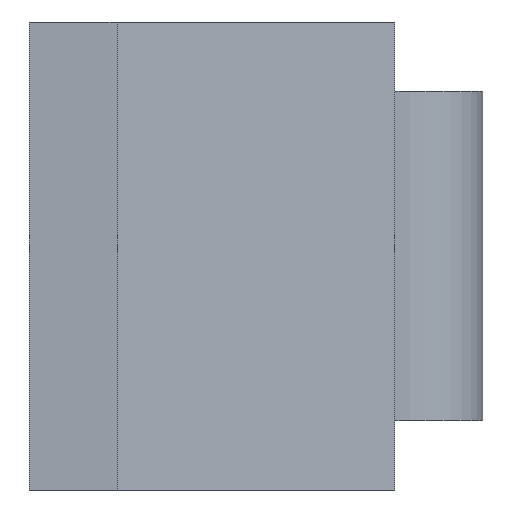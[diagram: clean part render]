
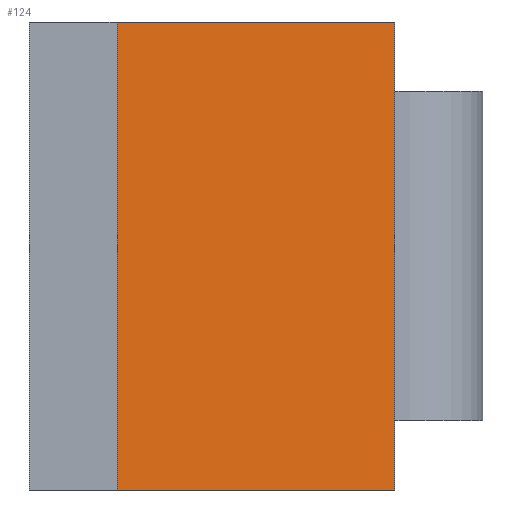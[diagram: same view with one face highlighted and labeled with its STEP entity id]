
A CAD part, front view. The second image highlights one B-rep face of the part: STEP entity #124.
In plain terms, the highlighted planar face has unit normal (0.139, -0.99, 0).
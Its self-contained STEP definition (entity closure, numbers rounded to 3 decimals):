
#124=ADVANCED_FACE('',(#186),#150,.T.);
#150=PLANE('',#522);
#186=FACE_OUTER_BOUND('',#214,.T.);
#214=EDGE_LOOP('',(#285,#286,#287,#288));
#285=ORIENTED_EDGE('',*,*,#413,.F.);
#286=ORIENTED_EDGE('',*,*,#384,.F.);
#287=ORIENTED_EDGE('',*,*,#406,.T.);
#288=ORIENTED_EDGE('',*,*,#418,.T.);
#344=VERTEX_POINT('',#673);
#346=VERTEX_POINT('',#677);
#366=VERTEX_POINT('',#722);
#371=VERTEX_POINT('',#736);
#384=EDGE_CURVE('',#346,#344,#436,.T.);
#406=EDGE_CURVE('',#346,#366,#453,.T.);
#413=EDGE_CURVE('',#344,#371,#459,.T.);
#418=EDGE_CURVE('',#366,#371,#464,.T.);
#436=LINE('',#678,#474);
#453=LINE('',#723,#491);
#459=LINE('',#735,#497);
#464=LINE('',#744,#502);
#474=VECTOR('',#555,1.);
#491=VECTOR('',#588,1.);
#497=VECTOR('',#598,1.);
#502=VECTOR('',#607,1.);
#522=AXIS2_PLACEMENT_3D('',#745,#608,#609);
#555=DIRECTION('',(0.,0.,-1.));
#588=DIRECTION('',(-0.99,-0.139,0.));
#598=DIRECTION('',(-0.99,-0.139,0.));
#607=DIRECTION('',(0.,0.,-1.));
#608=DIRECTION('',(0.139,-0.99,0.));
#609=DIRECTION('',(0.99,0.139,0.));
#673=CARTESIAN_POINT('',(24.,-29.659,0.));
#677=CARTESIAN_POINT('',(24.,-29.659,64.));
#678=CARTESIAN_POINT('',(24.,-29.659,64.));
#722=CARTESIAN_POINT('',(-14.,-35.,64.));
#723=CARTESIAN_POINT('',(24.,-29.659,64.));
#735=CARTESIAN_POINT('',(24.,-29.659,0.));
#736=CARTESIAN_POINT('',(-14.,-35.,0.));
#744=CARTESIAN_POINT('',(-14.,-35.,64.));
#745=CARTESIAN_POINT('',(24.,-29.659,64.));
